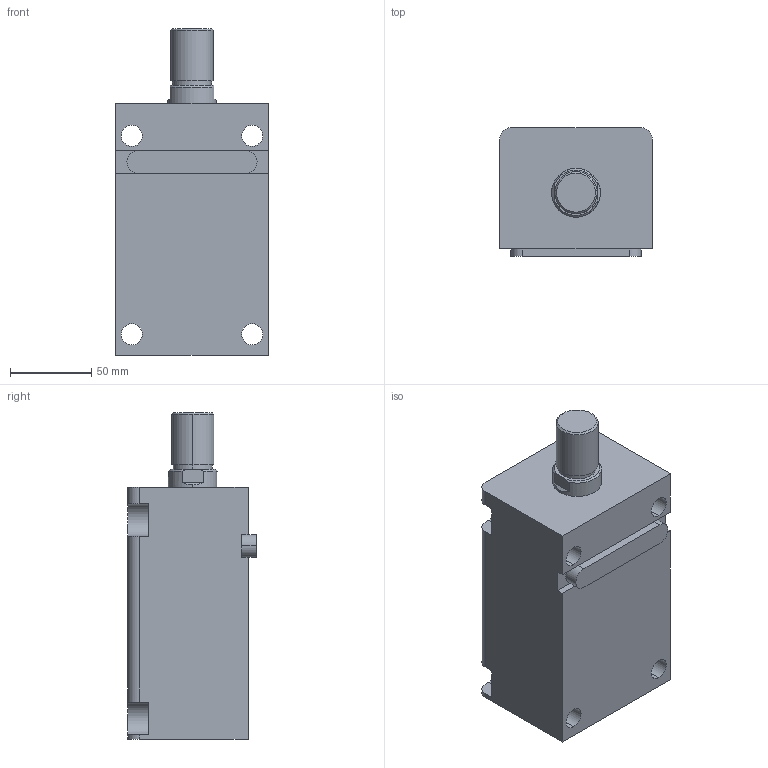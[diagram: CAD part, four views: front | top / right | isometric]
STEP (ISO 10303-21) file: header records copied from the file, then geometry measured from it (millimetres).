
FILE_DESCRIPTION (( 'STEP AP203' ), '1' );
FILE_NAME ('HTB-LA50-95W.STEP', '2019-10-09T07:14:03', ( '微软用户' ), ( '微软中国' ), 'SwSTEP 2.0', 'SolidWorks 2012', '' );
FILE_SCHEMA (( 'CONFIG_CONTROL_DESIGN' ));
Length unit declared in the file: millimetre
Products named in the file (4): HTB-LA50-瑩; HTB-LA50-95W; HTB-LA50-95W活塞杆; HTB-LA50-95掛极
Assembly tree (3 placements, depth 2):
  HTB-LA50-95W
    HTB-LA50-95掛极
    HTB-LA50-95W活塞杆
    HTB-LA50-瑩
Bounding box: 94 x 79 x 201 mm (x, y, z)
Volume: 933056.8 mm3; surface area: 127060 mm2
Topology: 3 solids, 3 shells, 90 faces, 219 edges, 144 vertices
Faces by surface type: plane 41, cylinder 37, cone 8, torus 4
Entity records: 3107 total; most frequent: DIRECTION 497, CARTESIAN_POINT 487, ORIENTED_EDGE 438, EDGE_CURVE 219, AXIS2_PLACEMENT_3D 190, VERTEX_POINT 144, LINE 117, VECTOR 117
